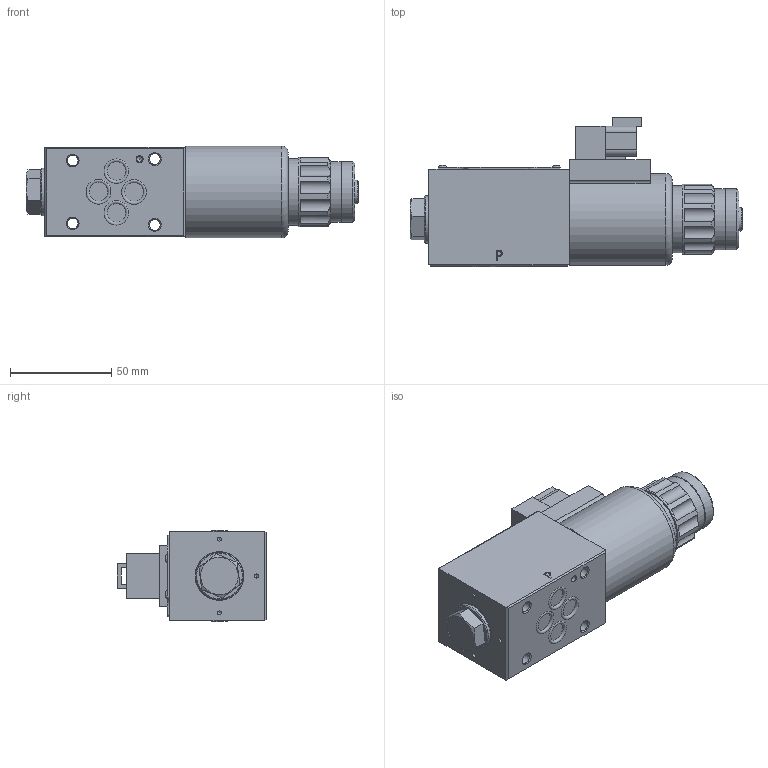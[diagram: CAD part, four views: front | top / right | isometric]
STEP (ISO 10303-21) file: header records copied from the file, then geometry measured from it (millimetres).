
FILE_DESCRIPTION(/* description */ (''),/* implementation_level */ '2;1');
FILE_NAME(/* name */ '4WE6-6XJ防水直流电磁阀（二位阀电磁铁在B端）.prt.stp',/* time_stamp */ '2022-03-30T19:31:40+08:00',/* author */ (''),/* organization */ (''),/* preprocessor_version */ 'ST-DEVELOPER v16.7',/* originating_system */ 'SIEMENS PLM Software NX 12.0',/* authorisation */ '');
FILE_SCHEMA (('AUTOMOTIVE_DESIGN { 1 0 10303 214 3 1 1 1 }'));
Length unit declared in the file: millimetre
Products named in the file (1): 4WE6-6XJ防水直流电磁阀（二位阀电磁铁在B
端）
Bounding box: 163.65 x 73.78 x 45.2 mm (x, y, z)
Volume: 249416.4 mm3; surface area: 74783.6 mm2
Topology: 43 solids, 50 shells, 1046 faces, 2674 edges, 1751 vertices
Faces by surface type: plane 697, cylinder 211, cone 58, bspline 28, torus 28, extrusion 18, sphere 6
Full cylindrical faces by diameter (mm): 1.5 x1, 1.8 x4, 2 x6, 2.5 x2, 3 x2, 4 x1, 4.6 x2, 5 x1, 5.3 x4, 8 x1, 8.1 x1, 8.7 x1, 9 x1, 9.4 x4, 11 x1, 12 x2, 12.2 x2, 12.5 x1, 14.3 x1, 14.5 x1, 17.4 x1, 18 x2, 20 x1, 23 x2, 23.5 x2, 24 x2, 26 x1, 28 x2, 30 x2, 33 x1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
Entity records: 38809 total; most frequent: CARTESIAN_POINT 13562, ORIENTED_EDGE 5000, DIRECTION 4816, EDGE_CURVE 2500, VECTOR 1842, LINE 1824, VERTEX_POINT 1718, AXIS2_PLACEMENT_3D 1487
